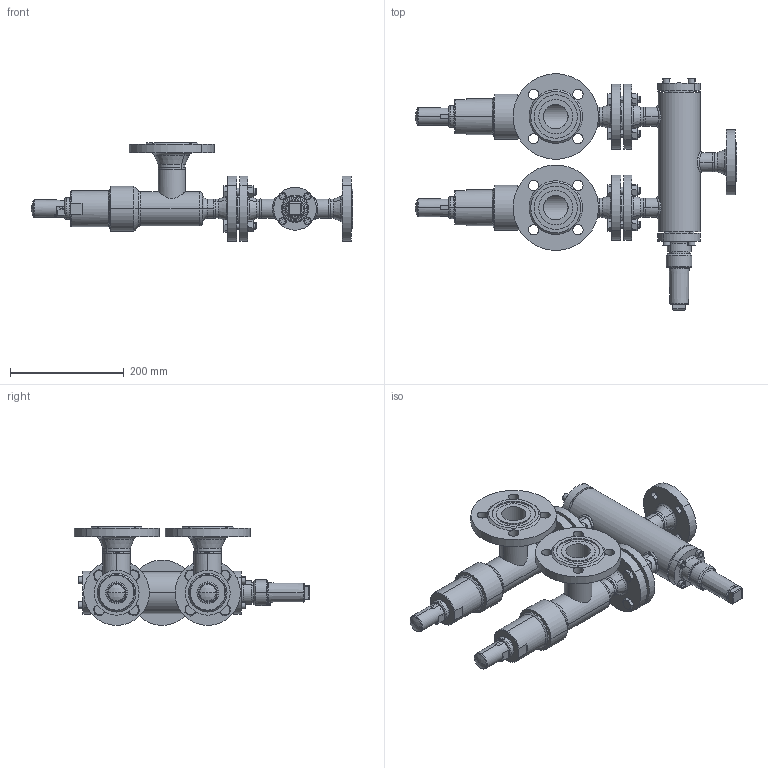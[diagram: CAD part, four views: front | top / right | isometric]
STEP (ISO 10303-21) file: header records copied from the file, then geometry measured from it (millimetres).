
FILE_DESCRIPTION (( 'STEP AP214' ), '1' );
FILE_NAME ('WVB-SVAB_1A6FL_DN25_DIN-FL_seitlich.STEP', '2010-09-09T11:33:39', ( 'Eckhard Grams' ), ( 'AWP Kälte Klima Armaturen GmbH' ), 'SwSTEP 2.0', 'SolidWorks 2002296', '' );
FILE_SCHEMA (( 'AUTOMOTIVE_DESIGN' ));
Length unit declared in the file: millimetre
Products named in the file (30): WVB-SVAB_1A6FL_DN25_DIN-FL_seitlich; WVB23020D12-DN025_DIN-FL-N-F_PS40_Standard; WVB-R23000E13_Deck+Schr-DN25-32_Standard; Deckel23000E13-DN25-32_Standard; Kappe 16402-13_DN10-32 (M36x2)_Standard; AVB16300E13_Deck+Schr-DN25-32_Standard; Deckel16300E13-DN25-32_Standard; Zylinderschraube-DIN912_M 8x  25; Geh,kpl24020E12-DN25_DIN-FL-N-F_PS40_Standard; Flansch-DIN2635-Feder_PS40_DIN-Flansch-DN025_PS40-Feder; Geh,kpl24000E12_DN25_R1_PS40_Standard; Gehäuse24000E12-DN25_R1_PS40_Standard; Rohrstutzen-24000E12-DN25_R1_Standard; Schw-24000E12-DN25_Standard; beadC4020-12-3_Standard; beadC4020-12-2_Standard; beadC4020-12-1_Standard; SVAB 45520D12-DN25(40)_DIN; Gehkpl 45720E12-5030001; Rohrstutzen-A 45700E12-5036004_DN25(40)_Standard; Flansch-DIN2635-Nut_PS40_DIN-Flansch-DN025_PS40-Nut; Flansch-DIN2635-Nut_PS40_DIN-Flansch-DN040_PS40-Nut; Geh 45700E12-5034004_DN25; bead Geh,kpl 45720E12-2_Standard; bead Geh,kpl 45720E12-1_Standard; Haube 45700E11-5260003_DN20-25; Flachdichtg-Alu-DN20-25; Kappe SVA-SVU-ORV_DN10-40 (M27x1,5)_Standard; Sechskantschraube-DIN933_M12x 50; Sechskantmutter-DIN934_M12
Assembly tree (57 placements, depth 5):
  WVB-SVAB_1A6FL_DN25_DIN-FL_seitlich
    Sechskantmutter-DIN934_M12  x8
    Sechskantschraube-DIN933_M12x 50  x8
    WVB23020D12-DN025_DIN-FL-N-F_PS40_Standard
      Kappe 16402-13_DN10-32 (M36x2)_Standard
      Geh,kpl24020E12-DN25_DIN-FL-N-F_PS40_Standard
        Flansch-DIN2635-Nut_PS40_DIN-Flansch-DN025_PS40-Nut
        beadC4020-12-3_Standard
        beadC4020-12-1_Standard
        Flansch-DIN2635-Feder_PS40_DIN-Flansch-DN025_PS40-Feder  x2
        Geh,kpl24000E12_DN25_R1_PS40_Standard
          Rohrstutzen-24000E12-DN25_R1_Standard  x3
          Schw-24000E12-DN25_Standard  x3
          Gehäuse24000E12-DN25_R1_PS40_Standard
        beadC4020-12-2_Standard
      WVB-R23000E13_Deck+Schr-DN25-32_Standard
        Deckel23000E13-DN25-32_Standard
        Zylinderschraube-DIN912_M 8x  25  x4
      AVB16300E13_Deck+Schr-DN25-32_Standard
        Zylinderschraube-DIN912_M 8x  25  x4
        Deckel16300E13-DN25-32_Standard
    SVAB 45520D12-DN25(40)_DIN  x2
      Flachdichtg-Alu-DN20-25
      Gehkpl 45720E12-5030001
        Geh 45700E12-5034004_DN25
        Flansch-DIN2635-Nut_PS40_DIN-Flansch-DN025_PS40-Nut
        Flansch-DIN2635-Nut_PS40_DIN-Flansch-DN040_PS40-Nut
        Rohrstutzen-A 45700E12-5036004_DN25(40)_Standard
        bead Geh,kpl 45720E12-2_Standard
        bead Geh,kpl 45720E12-1_Standard
      Haube 45700E11-5260003_DN20-25
      Kappe SVA-SVU-ORV_DN10-40 (M27x1,5)_Standard
Bounding box: 564 x 414.21 x 173.28 mm (x, y, z)
Volume: 3139883.9 mm3; surface area: 778867 mm2
Topology: 58 solids, 58 shells, 1347 faces, 3153 edges, 1973 vertices
Faces by surface type: cylinder 500, plane 379, cone 311, torus 95, bspline 54, sphere 8
Entity records: 42068 total; most frequent: CARTESIAN_POINT 26332, DIRECTION 2905, ORIENTED_EDGE 2754, EDGE_CURVE 1377, AXIS2_PLACEMENT_3D 1235, VERTEX_POINT 864, EDGE_LOOP 689, CIRCLE 624
